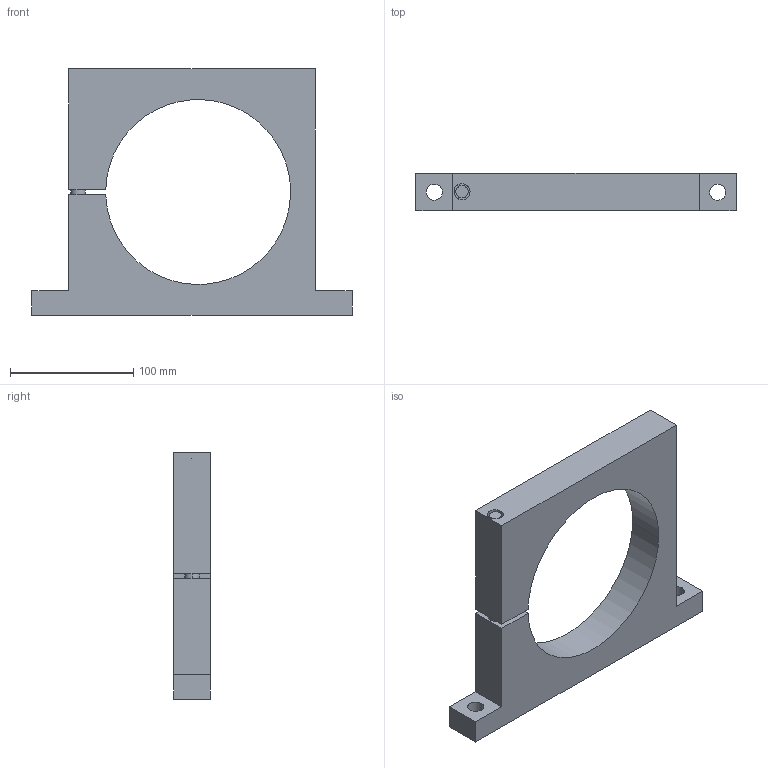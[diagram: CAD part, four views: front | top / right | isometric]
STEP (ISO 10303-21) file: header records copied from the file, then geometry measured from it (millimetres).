
FILE_DESCRIPTION(('CATIA V5 STEP Exchange'),'2;1');
FILE_NAME('W:\LIBRERIA TECAPRES®\FICHEROS CAD\BRIDAS\FI\FI 150.stp','2015-06-30T10:29:46+00:00',('none'),('none'),'CATIA Version 5 Release 17 (IN-10)','CATIA V5 STEP AP203','none');
FILE_SCHEMA(('CONFIG_CONTROL_DESIGN'));
Length unit declared in the file: millimetre
Products named in the file (1): BRIDA FI150
Bounding box: 260 x 30 x 200 mm (x, y, z)
Volume: 687448.2 mm3; surface area: 96373.8 mm2
Topology: 1 solids, 2 shells, 34 faces, 81 edges, 54 vertices
Faces by surface type: plane 18, cylinder 16
Entity records: 1540 total; most frequent: CARTESIAN_POINT 775, ORIENTED_EDGE 162, DIRECTION 108, EDGE_CURVE 81, VERTEX_POINT 54, VECTOR 49, LINE 49, EDGE_LOOP 43
